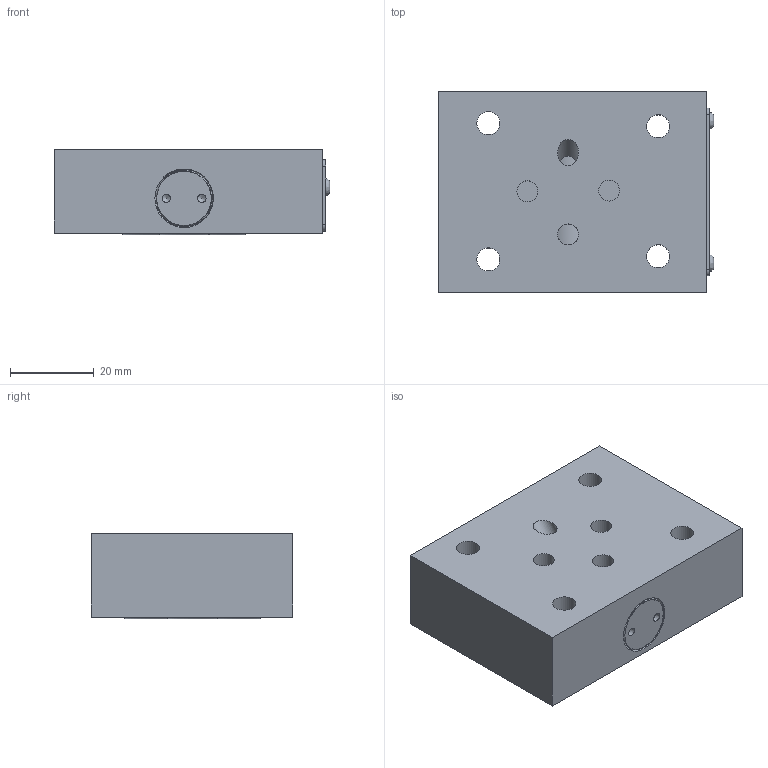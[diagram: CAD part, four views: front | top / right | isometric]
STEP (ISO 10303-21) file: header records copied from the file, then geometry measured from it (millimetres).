
FILE_DESCRIPTION(/* description */ (''),/* implementation_level */ '2;1');
FILE_NAME(/* name */ 'ZDR6DPO-4XJ定值减压阀.prt.stp',/* time_stamp */ '2022-03-30T20:21:18+08:00',/* author */ (''),/* organization */ (''),/* preprocessor_version */ 'ST-DEVELOPER v16.7',/* originating_system */ 'SIEMENS PLM Software NX 12.0',/* authorisation */ '');
FILE_SCHEMA (('AUTOMOTIVE_DESIGN { 1 0 10303 214 3 1 1 1 }'));
Length unit declared in the file: millimetre
Products named in the file (1): ZDR6DPO-4XJ定值减压阀
Bounding box: 65.8 x 48 x 20.38 mm (x, y, z)
Volume: 59481.3 mm3; surface area: 17136.5 mm2
Topology: 10 solids, 10 shells, 117 faces, 261 edges, 170 vertices
Faces by surface type: cylinder 47, plane 40, cone 14, bspline 12, torus 4
Full cylindrical faces by diameter (mm): 1.8 x4, 2 x4, 2.3 x2, 5 x4, 5.5 x4, 7 x2, 10 x2, 12.2 x6, 12.917 x4
Entity records: 5554 total; most frequent: CARTESIAN_POINT 3272, DIRECTION 424, ORIENTED_EDGE 354, AXIS2_PLACEMENT_3D 187, EDGE_LOOP 178, EDGE_CURVE 177, VERTEX_POINT 151, FACE_BOUND 143
